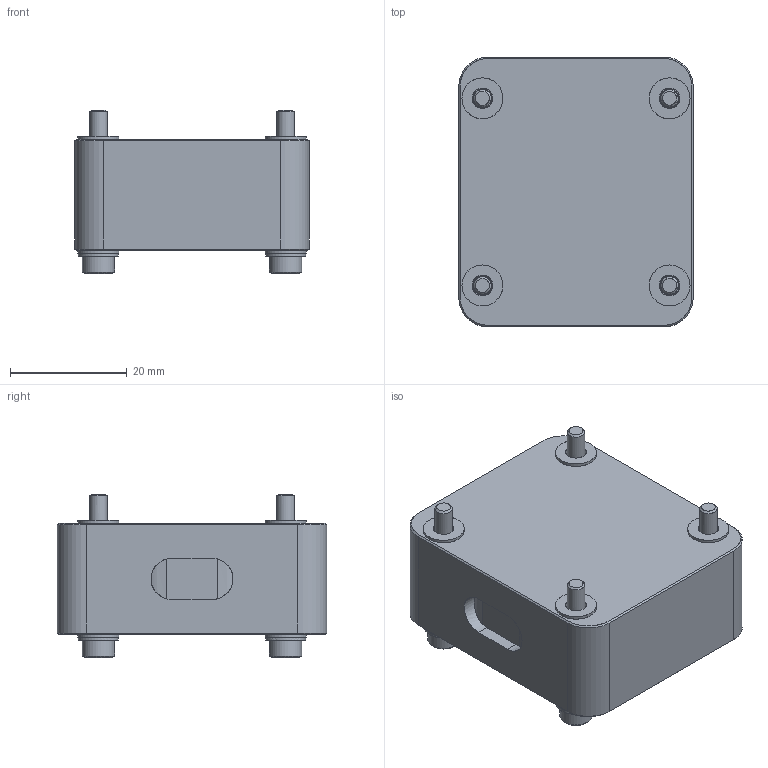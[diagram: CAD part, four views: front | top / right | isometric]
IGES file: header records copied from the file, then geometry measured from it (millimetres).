
Global section: file name: Z:\LA-RVI20-X3-P0_A.igs; native system: NX V10.0; preprocessor: SIEMENS PLM Software NX 10.0; date: 20190213.074238; units: millimetre
Bounding box: 40.1 x 46.1 x 28 mm (x, y, z)
Surface area: 23601.2 mm2 (no closed solid volume)
Topology: 0 solids, 0 shells, 1352 faces, 8540 edges, 8772 vertices
Faces by surface type: bspline 1352
